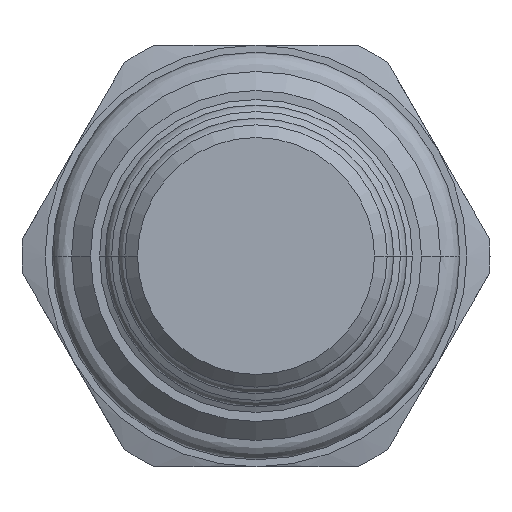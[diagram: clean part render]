
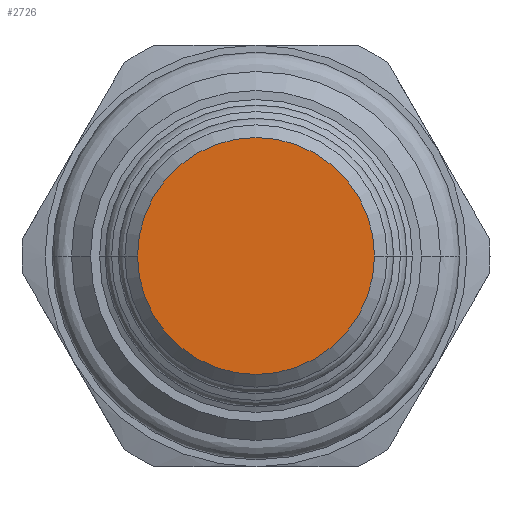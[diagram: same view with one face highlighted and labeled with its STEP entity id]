
A CAD part, front view. The second image highlights one B-rep face of the part: STEP entity #2726.
In plain terms, the highlighted planar face has unit normal (0, -1, 0).
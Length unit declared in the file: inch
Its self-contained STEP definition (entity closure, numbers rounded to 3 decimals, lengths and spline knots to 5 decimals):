
#1149=CARTESIAN_POINT('',(0.,-1.813,0.));
#1150=DIRECTION('',(0.,-1.,0.));
#1151=DIRECTION('',(-1.,0.,0.));
#1152=AXIS2_PLACEMENT_3D('',#1149,#1150,#1151);
#1163=CARTESIAN_POINT('',(0.,-1.813,0.));
#1164=DIRECTION('',(0.,1.,0.));
#1165=DIRECTION('',(-1.,0.,0.));
#1166=AXIS2_PLACEMENT_3D('',#1163,#1164,#1165);
#1249=CARTESIAN_POINT('',(-0.281,-1.813,0.));
#1250=CARTESIAN_POINT('',(0.281,-1.813,0.));
#1251=VERTEX_POINT('',#1249);
#1252=VERTEX_POINT('',#1250);
#2717=CARTESIAN_POINT('',(0.,-1.813,0.));
#2718=DIRECTION('',(0.,-1.,0.));
#2719=DIRECTION('',(1.,0.,0.));
#2720=AXIS2_PLACEMENT_3D('',#2717,#2718,#2719);
#2721=PLANE('',#2720);
#2722=ORIENTED_EDGE('',*,*,#2697,.F.);
#2723=ORIENTED_EDGE('',*,*,#2711,.T.);
#2724=EDGE_LOOP('',(#2722,#2723));
#2725=FACE_OUTER_BOUND('',#2724,.F.);
#2726=ADVANCED_FACE('',(#2725),#2721,.T.);
#1153=CIRCLE('',#1152,0.281);
#1167=CIRCLE('',#1166,0.281);
#2697=EDGE_CURVE('',#1251,#1252,#1153,.T.);
#2711=EDGE_CURVE('',#1251,#1252,#1167,.T.);
